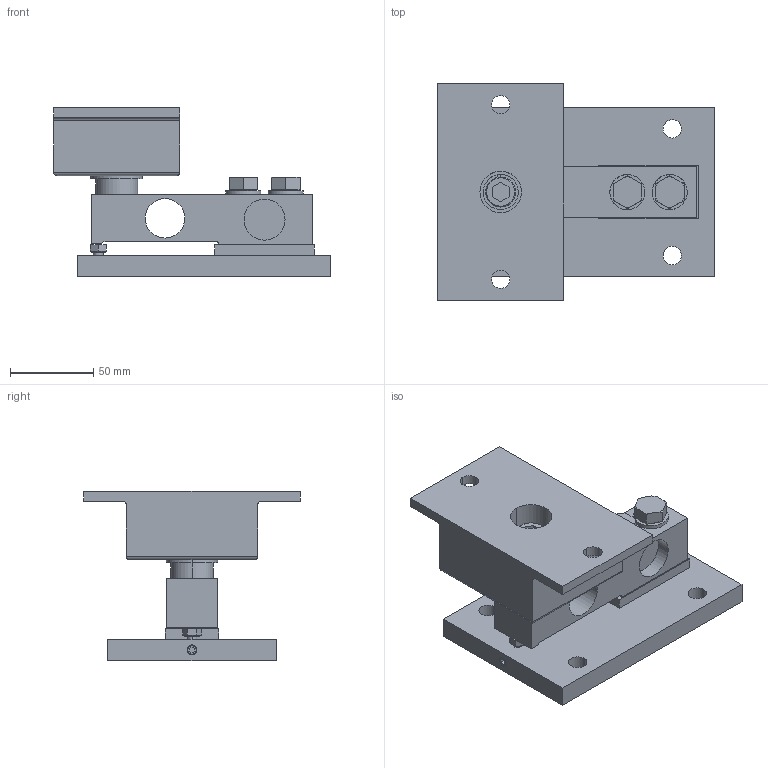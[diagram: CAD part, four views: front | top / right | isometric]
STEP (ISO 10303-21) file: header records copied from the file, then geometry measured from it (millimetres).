
FILE_DESCRIPTION((''),'2;1');
FILE_NAME('CAD3D_SWB220_1250LB','2017-05-31T',('li-383'),(''),'PRO/ENGINEER BY PARAMETRIC TECHNOLOGY CORPORATION, 2016240','PRO/ENGINEER BY PARAMETRIC TECHNOLOGY CORPORATION, 2016240','');
FILE_SCHEMA(('CONFIG_CONTROL_DESIGN'));
Length unit declared in the file: millimetre
Products named in the file (1): CAD3D_SWB220_1250LB
Bounding box: 166.57 x 130 x 101.7 mm (x, y, z)
Surface area: 106540.2 mm2 (no closed solid volume)
Topology: 0 solids, 17 shells, 191 faces, 502 edges, 336 vertices
Faces by surface type: plane 106, cylinder 56, cone 28, torus 1
Entity records: 6142 total; most frequent: CARTESIAN_POINT 1336, DIRECTION 1008, ORIENTED_EDGE 922, EDGE_CURVE 502, AXIS2_PLACEMENT_3D 377, VERTEX_POINT 338, VECTOR 254, LINE 254
